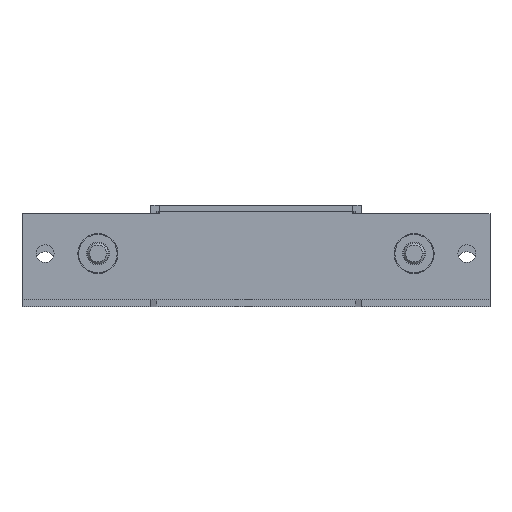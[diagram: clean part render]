
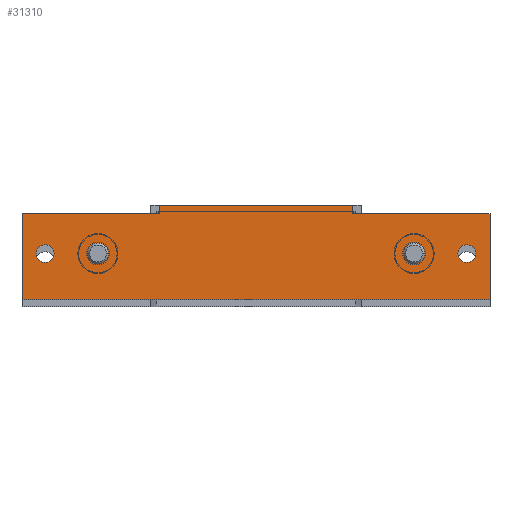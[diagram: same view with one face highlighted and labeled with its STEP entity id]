
A CAD part, top view. The second image highlights one B-rep face of the part: STEP entity #31310.
In plain terms, the highlighted planar face has unit normal (0, 0, 1).
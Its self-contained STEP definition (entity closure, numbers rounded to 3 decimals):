
#3250 = VERTEX_POINT('',#3251);
#3251 = CARTESIAN_POINT('',(-47.9,-11.5,473.5));
#3257 = EDGE_CURVE('',#3258,#3250,#3260,.T.);
#3258 = VERTEX_POINT('',#3259);
#3259 = CARTESIAN_POINT('',(-52.1,-11.5,473.5));
#3260 = CIRCLE('',#3261,2.1);
#3261 = AXIS2_PLACEMENT_3D('',#3262,#3263,#3264);
#3262 = CARTESIAN_POINT('',(-50.,-11.5,473.5));
#3263 = DIRECTION('',(0.,0.,1.));
#3264 = DIRECTION('',(1.,0.,-0.));
#3292 = VERTEX_POINT('',#3293);
#3293 = CARTESIAN_POINT('',(39.6,-11.5,473.5));
#3299 = EDGE_CURVE('',#3300,#3292,#3302,.T.);
#3300 = VERTEX_POINT('',#3301);
#3301 = CARTESIAN_POINT('',(35.4,-11.5,473.5));
#3302 = CIRCLE('',#3303,2.1);
#3303 = AXIS2_PLACEMENT_3D('',#3304,#3305,#3306);
#3304 = CARTESIAN_POINT('',(37.5,-11.5,473.5));
#3305 = DIRECTION('',(0.,0.,1.));
#3306 = DIRECTION('',(-1.,0.,0.));
#3334 = VERTEX_POINT('',#3335);
#3335 = CARTESIAN_POINT('',(52.1,-11.5,473.5));
#3341 = EDGE_CURVE('',#3342,#3334,#3344,.T.);
#3342 = VERTEX_POINT('',#3343);
#3343 = CARTESIAN_POINT('',(47.9,-11.5,473.5));
#3344 = CIRCLE('',#3345,2.1);
#3345 = AXIS2_PLACEMENT_3D('',#3346,#3347,#3348);
#3346 = CARTESIAN_POINT('',(50.,-11.5,473.5));
#3347 = DIRECTION('',(0.,0.,1.));
#3348 = DIRECTION('',(-1.,0.,0.));
#3376 = VERTEX_POINT('',#3377);
#3377 = CARTESIAN_POINT('',(-35.4,-11.5,473.5));
#3383 = EDGE_CURVE('',#3384,#3376,#3386,.T.);
#3384 = VERTEX_POINT('',#3385);
#3385 = CARTESIAN_POINT('',(-39.6,-11.5,473.5));
#3386 = CIRCLE('',#3387,2.1);
#3387 = AXIS2_PLACEMENT_3D('',#3388,#3389,#3390);
#3388 = CARTESIAN_POINT('',(-37.5,-11.5,473.5));
#3389 = DIRECTION('',(0.,0.,1.));
#3390 = DIRECTION('',(1.,0.,-0.));
#13026 = VERTEX_POINT('',#13027);
#13027 = CARTESIAN_POINT('',(-22.9,0.,473.5));
#13033 = EDGE_CURVE('',#13034,#13026,#13036,.T.);
#13034 = VERTEX_POINT('',#13035);
#13035 = CARTESIAN_POINT('',(22.9,0.,473.5));
#13036 = LINE('',#13037,#13038);
#13037 = CARTESIAN_POINT('',(-25.,0.,473.5));
#13038 = VECTOR('',#13039,1.);
#13039 = DIRECTION('',(-1.,0.,0.));
#31251 = VERTEX_POINT('',#31252);
#31252 = CARTESIAN_POINT('',(22.9,-2.1,473.5));
#31267 = EDGE_CURVE('',#31251,#13034,#31268,.T.);
#31268 = LINE('',#31269,#31270);
#31269 = CARTESIAN_POINT('',(22.9,-2.1,473.5));
#31270 = VECTOR('',#31271,1.);
#31271 = DIRECTION('',(-0.,1.,0.));
#31291 = VERTEX_POINT('',#31292);
#31292 = CARTESIAN_POINT('',(-22.9,-2.1,473.5));
#31298 = EDGE_CURVE('',#31291,#13026,#31299,.T.);
#31299 = LINE('',#31300,#31301);
#31300 = CARTESIAN_POINT('',(-22.9,0.,473.5));
#31301 = VECTOR('',#31302,1.);
#31302 = DIRECTION('',(0.,1.,0.));
#31310 = ADVANCED_FACE('',(#31311,#31321,#31331,#31341,#31351),#31394,
  .T.);
#31311 = FACE_BOUND('',#31312,.T.);
#31312 = EDGE_LOOP('',(#31313,#31320));
#31313 = ORIENTED_EDGE('',*,*,#31314,.F.);
#31314 = EDGE_CURVE('',#3250,#3258,#31315,.T.);
#31315 = CIRCLE('',#31316,2.1);
#31316 = AXIS2_PLACEMENT_3D('',#31317,#31318,#31319);
#31317 = CARTESIAN_POINT('',(-50.,-11.5,473.5));
#31318 = DIRECTION('',(0.,0.,1.));
#31319 = DIRECTION('',(1.,0.,-0.));
#31320 = ORIENTED_EDGE('',*,*,#3257,.F.);
#31321 = FACE_BOUND('',#31322,.T.);
#31322 = EDGE_LOOP('',(#31323,#31330));
#31323 = ORIENTED_EDGE('',*,*,#31324,.F.);
#31324 = EDGE_CURVE('',#3292,#3300,#31325,.T.);
#31325 = CIRCLE('',#31326,2.1);
#31326 = AXIS2_PLACEMENT_3D('',#31327,#31328,#31329);
#31327 = CARTESIAN_POINT('',(37.5,-11.5,473.5));
#31328 = DIRECTION('',(0.,0.,1.));
#31329 = DIRECTION('',(-1.,0.,0.));
#31330 = ORIENTED_EDGE('',*,*,#3299,.F.);
#31331 = FACE_BOUND('',#31332,.T.);
#31332 = EDGE_LOOP('',(#31333,#31340));
#31333 = ORIENTED_EDGE('',*,*,#31334,.F.);
#31334 = EDGE_CURVE('',#3334,#3342,#31335,.T.);
#31335 = CIRCLE('',#31336,2.1);
#31336 = AXIS2_PLACEMENT_3D('',#31337,#31338,#31339);
#31337 = CARTESIAN_POINT('',(50.,-11.5,473.5));
#31338 = DIRECTION('',(0.,0.,1.));
#31339 = DIRECTION('',(-1.,0.,0.));
#31340 = ORIENTED_EDGE('',*,*,#3341,.F.);
#31341 = FACE_BOUND('',#31342,.T.);
#31342 = EDGE_LOOP('',(#31343,#31350));
#31343 = ORIENTED_EDGE('',*,*,#31344,.F.);
#31344 = EDGE_CURVE('',#3376,#3384,#31345,.T.);
#31345 = CIRCLE('',#31346,2.1);
#31346 = AXIS2_PLACEMENT_3D('',#31347,#31348,#31349);
#31347 = CARTESIAN_POINT('',(-37.5,-11.5,473.5));
#31348 = DIRECTION('',(0.,0.,1.));
#31349 = DIRECTION('',(1.,0.,-0.));
#31350 = ORIENTED_EDGE('',*,*,#3383,.F.);
#31351 = FACE_BOUND('',#31352,.T.);
#31352 = EDGE_LOOP('',(#31353,#31363,#31371,#31377,#31378,#31379,#31380,
    #31388));
#31353 = ORIENTED_EDGE('',*,*,#31354,.F.);
#31354 = EDGE_CURVE('',#31355,#31357,#31359,.T.);
#31355 = VERTEX_POINT('',#31356);
#31356 = CARTESIAN_POINT('',(55.5,-22.5,473.5));
#31357 = VERTEX_POINT('',#31358);
#31358 = CARTESIAN_POINT('',(-55.5,-22.5,473.5));
#31359 = LINE('',#31360,#31361);
#31360 = CARTESIAN_POINT('',(-22.9,-22.5,473.5));
#31361 = VECTOR('',#31362,1.);
#31362 = DIRECTION('',(-1.,0.,-0.));
#31363 = ORIENTED_EDGE('',*,*,#31364,.F.);
#31364 = EDGE_CURVE('',#31365,#31355,#31367,.T.);
#31365 = VERTEX_POINT('',#31366);
#31366 = CARTESIAN_POINT('',(55.5,-2.1,473.5));
#31367 = LINE('',#31368,#31369);
#31368 = CARTESIAN_POINT('',(55.5,-19.5,473.5));
#31369 = VECTOR('',#31370,1.);
#31370 = DIRECTION('',(0.,-1.,0.));
#31371 = ORIENTED_EDGE('',*,*,#31372,.F.);
#31372 = EDGE_CURVE('',#31251,#31365,#31373,.T.);
#31373 = LINE('',#31374,#31375);
#31374 = CARTESIAN_POINT('',(22.9,-2.1,473.5));
#31375 = VECTOR('',#31376,1.);
#31376 = DIRECTION('',(1.,0.,0.));
#31377 = ORIENTED_EDGE('',*,*,#31267,.T.);
#31378 = ORIENTED_EDGE('',*,*,#13033,.T.);
#31379 = ORIENTED_EDGE('',*,*,#31298,.F.);
#31380 = ORIENTED_EDGE('',*,*,#31381,.T.);
#31381 = EDGE_CURVE('',#31291,#31382,#31384,.T.);
#31382 = VERTEX_POINT('',#31383);
#31383 = CARTESIAN_POINT('',(-55.5,-2.1,473.5));
#31384 = LINE('',#31385,#31386);
#31385 = CARTESIAN_POINT('',(-22.9,-2.1,473.5));
#31386 = VECTOR('',#31387,1.);
#31387 = DIRECTION('',(-1.,0.,0.));
#31388 = ORIENTED_EDGE('',*,*,#31389,.T.);
#31389 = EDGE_CURVE('',#31382,#31357,#31390,.T.);
#31390 = LINE('',#31391,#31392);
#31391 = CARTESIAN_POINT('',(-55.5,-19.5,473.5));
#31392 = VECTOR('',#31393,1.);
#31393 = DIRECTION('',(0.,-1.,-0.));
#31394 = PLANE('',#31395);
#31395 = AXIS2_PLACEMENT_3D('',#31396,#31397,#31398);
#31396 = CARTESIAN_POINT('',(0.,0.,
    473.5));
#31397 = DIRECTION('',(0.,0.,1.));
#31398 = DIRECTION('',(0.,-1.,0.));
